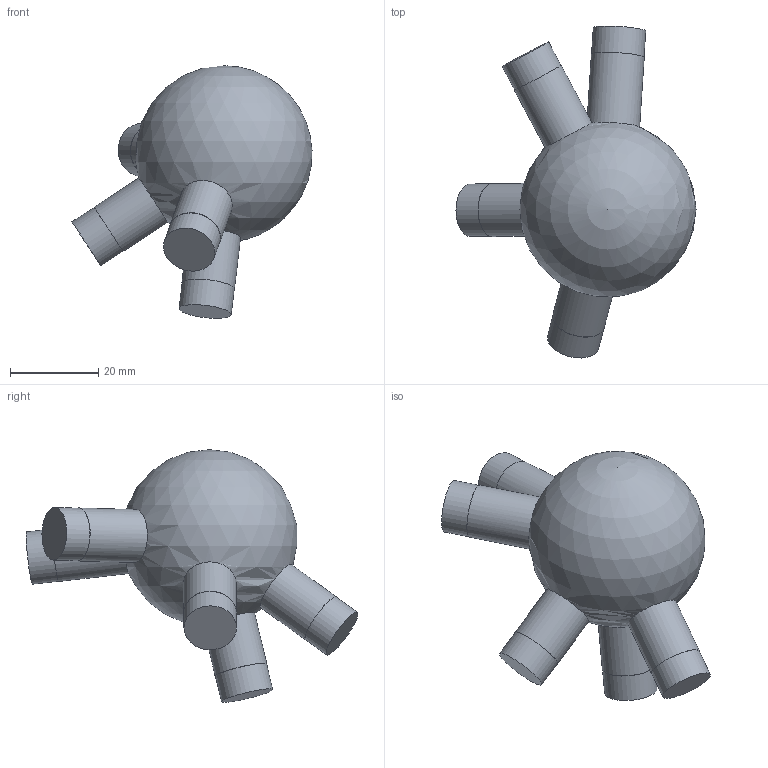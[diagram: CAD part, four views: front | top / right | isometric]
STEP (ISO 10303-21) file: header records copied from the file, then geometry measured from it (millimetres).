
FILE_DESCRIPTION(('Open CASCADE Model'),'2;1');
FILE_NAME('Open CASCADE Shape Model','2026-10-21T12:47:57',('Author'),( 'Open CASCADE'),'Open CASCADE STEP processor 7.9','Open CASCADE 7.9' ,'Unknown');
FILE_SCHEMA(('AUTOMOTIVE_DESIGN { 1 0 10303 214 1 1 1 1 }'));
Length unit declared in the file: millimetre
Products named in the file (1): Open CASCADE STEP translator 7.9 113
Bounding box: 54.38 x 75.17 x 57.22 mm (x, y, z)
Volume: 44214.3 mm3; surface area: 8672.2 mm2
Topology: 1 solids, 1 shells, 21 faces, 37 edges, 25 vertices
Faces by surface type: cylinder 10, plane 10, sphere 1
Full cylindrical faces by diameter (mm): 11.9 x5, 12 x5
Entity records: 1432 total; most frequent: CARTESIAN_POINT 615, DIRECTION 165, ORIENTED_EDGE 72, PCURVE 72, DEFINITIONAL_REPRESENTATION 72, LINE 54, VECTOR 54, AXIS2_PLACEMENT_3D 48
